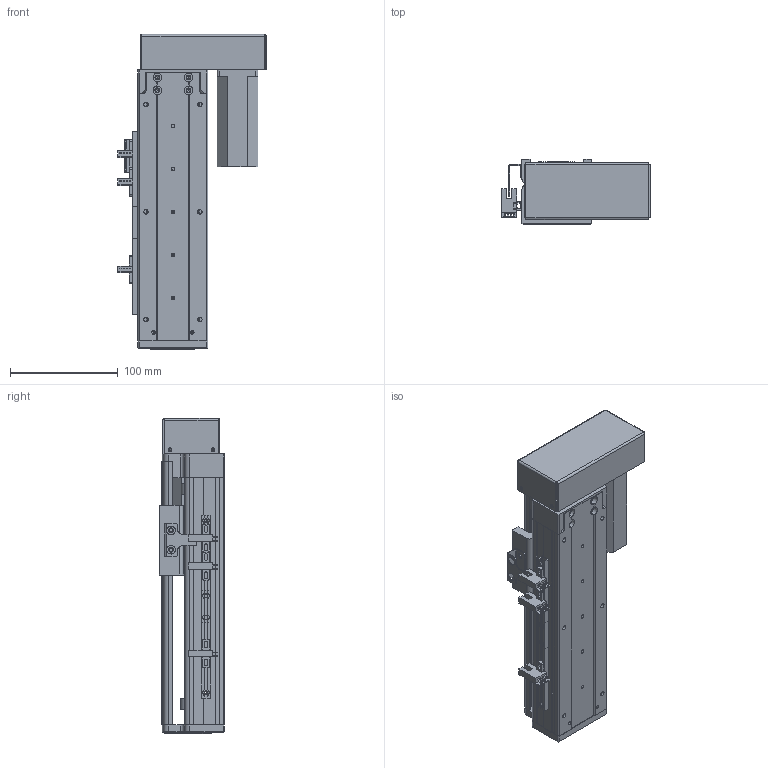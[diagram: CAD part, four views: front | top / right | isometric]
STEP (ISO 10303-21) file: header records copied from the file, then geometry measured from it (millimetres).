
FILE_DESCRIPTION (( 'STEP AP203' ), '1' );
FILE_NAME ('RY60-L1210-300-RK.SLDASM_100.step', '2021-02-20T06:52:24', ( '盈信电脑' ), ( '东莞市道滘镇水果街19号' ), 'SwSTEP 2.0', 'SolidWorks 2012', '' );
FILE_SCHEMA (( 'CONFIG_CONTROL_DESIGN' ));
Length unit declared in the file: millimetre
Products named in the file (13): 覜茼ん672; 672嫖萇羲壽假蚾釱; RY60-L1210-300-RK.SLDASM_100; RY80俋离覜茼え; RY60左右折电机安装板; RY60酘衵殏萇儂欶; 侂狟100W; 滅袉蝶18-10; RY60綴裔啣; RY60转折电机端支撑座; RY60-300倰第裔啣-RK_100; RY60-300倰第菁釱-RK_100; RY60臏賑輸
Assembly tree (18 placements, depth 2):
  RY60-L1210-300-RK.SLDASM_100
    RY60-300倰第菁釱-RK_100
    RY60臏賑輸
    RY60-300倰第裔啣-RK_100
    RY60綴裔啣
    滅袉蝶18-10  x4
    RY60转折电机端支撑座
    RY60左右折电机安装板
    侂狟100W
    RY60酘衵殏萇儂欶
    RY80俋离覜茼え
    672嫖萇羲壽假蚾釱  x2
    覜茼ん672  x3
Bounding box: 137.9 x 61 x 293 mm (x, y, z)
Volume: 538948.8 mm3; surface area: 256625.7 mm2
Topology: 18 solids, 18 shells, 1355 faces, 3749 edges, 2402 vertices
Faces by surface type: plane 689, cylinder 549, cone 100, bspline 17
Entity records: 39276 total; most frequent: CARTESIAN_POINT 8887, ORIENTED_EDGE 6082, DIRECTION 5943, EDGE_CURVE 3041, AXIS2_PLACEMENT_3D 2028, VERTEX_POINT 1982, VECTOR 1887, LINE 1887
